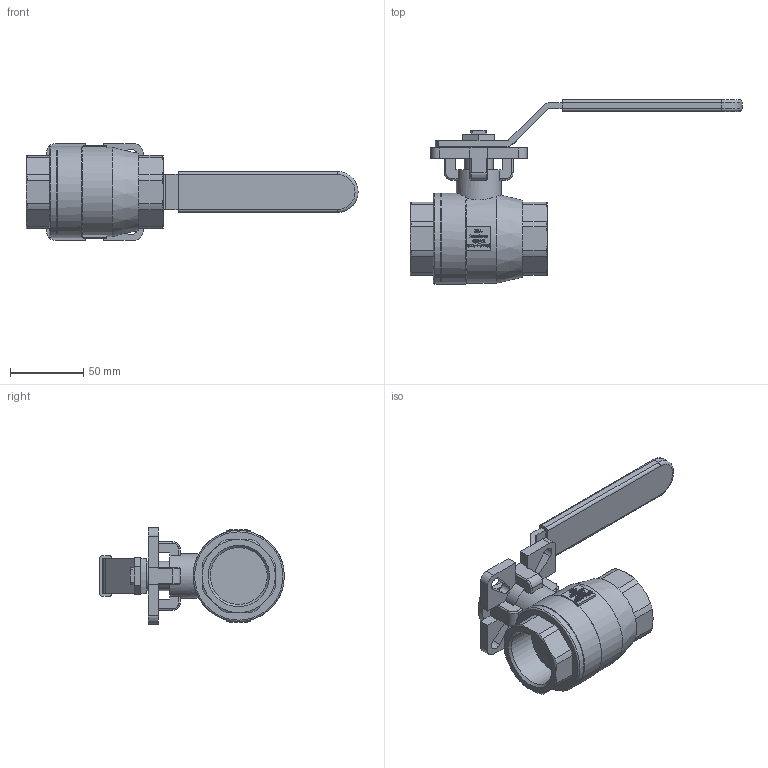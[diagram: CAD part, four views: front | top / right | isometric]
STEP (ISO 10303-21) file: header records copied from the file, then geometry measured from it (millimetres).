
FILE_DESCRIPTION((''),'2;1');
FILE_NAME('K:\Inventor\1 Artikel\11) Muffen-Kugelhähne\11a) manuell\Econosto\440-VA, 7752ISO\440-VA, G1,25\440-VA, G1,25, 3D\440-VA, G1,25, PN68, HH, 3D.stp','2019-10-24T14:41:56',('claudia'),(''),'Autodesk Inventor 2013','Autodesk Inventor 2013','');
FILE_SCHEMA(('AUTOMOTIVE_DESIGN { 1 0 10303 214 1 1 1 1 }'));
Length unit declared in the file: millimetre
Products named in the file (1): Bauteil9
Bounding box: 227 x 126.3 x 66 mm (x, y, z)
Volume: 269691 mm3; surface area: 55277.4 mm2
Topology: 1 solids, 1 shells, 1336 faces, 3601 edges, 2378 vertices
Faces by surface type: plane 800, bspline 433, cylinder 70, cone 22, torus 11
Full cylindrical faces by diameter (mm): 20 x1, 30.5 x1, 34 x1, 38.952 x2, 62.4 x2
Entity records: 45055 total; most frequent: CARTESIAN_POINT 14420, ORIENTED_EDGE 7168, DIRECTION 4673, EDGE_CURVE 3584, VECTOR 2483, LINE 2483, VERTEX_POINT 2374, EDGE_LOOP 1476
